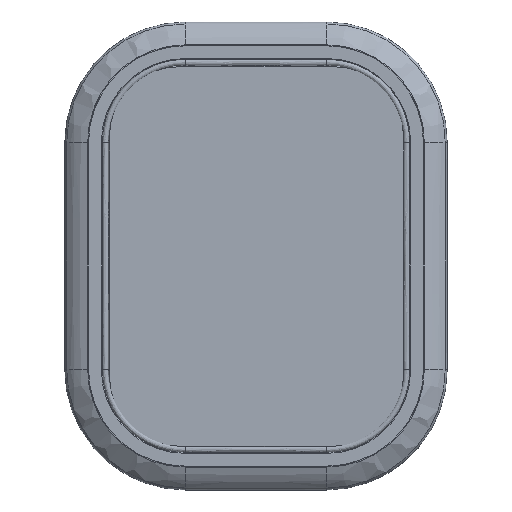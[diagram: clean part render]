
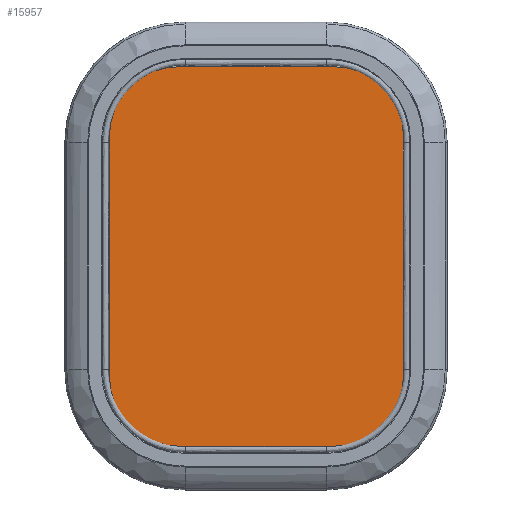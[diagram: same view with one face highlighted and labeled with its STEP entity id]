
A CAD part, top view. The second image highlights one B-rep face of the part: STEP entity #15957.
In plain terms, the highlighted planar face has unit normal (0, 0, 1) as drawn and (0, 1, 0) by its records, which use the part's own axes.
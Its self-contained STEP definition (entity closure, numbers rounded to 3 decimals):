
#15318=DIRECTION('',(-1.,0.,0.));
#15319=VECTOR('',#15318,155.);
#15320=CARTESIAN_POINT('',(77.5,6.,-94.5));
#15321=LINE('',#15320,#15319);
#15322=CARTESIAN_POINT('',(77.5,6.,-50.));
#15323=DIRECTION('',(0.,1.,0.));
#15324=DIRECTION('',(1.,0.,0.));
#15325=AXIS2_PLACEMENT_3D('',#15322,#15323,#15324);
#15327=DIRECTION('',(0.,0.,-1.));
#15328=VECTOR('',#15327,100.);
#15329=CARTESIAN_POINT('',(122.,6.,50.));
#15330=LINE('',#15329,#15328);
#15331=CARTESIAN_POINT('',(77.5,6.,50.));
#15332=DIRECTION('',(0.,1.,0.));
#15333=DIRECTION('',(0.,0.,1.));
#15334=AXIS2_PLACEMENT_3D('',#15331,#15332,#15333);
#15336=DIRECTION('',(1.,0.,0.));
#15337=VECTOR('',#15336,155.);
#15338=CARTESIAN_POINT('',(-77.5,6.,94.5));
#15339=LINE('',#15338,#15337);
#15340=CARTESIAN_POINT('',(-77.5,6.,50.));
#15341=DIRECTION('',(0.,1.,0.));
#15342=DIRECTION('',(-1.,0.,0.));
#15343=AXIS2_PLACEMENT_3D('',#15340,#15341,#15342);
#15345=DIRECTION('',(0.,0.,1.));
#15346=VECTOR('',#15345,100.);
#15347=CARTESIAN_POINT('',(-122.,6.,-50.));
#15348=LINE('',#15347,#15346);
#15349=CARTESIAN_POINT('',(-77.5,6.,-50.));
#15350=DIRECTION('',(0.,1.,0.));
#15351=DIRECTION('',(0.,0.,-1.));
#15352=AXIS2_PLACEMENT_3D('',#15349,#15350,#15351);
#15882=CARTESIAN_POINT('',(77.5,6.,-94.5));
#15883=CARTESIAN_POINT('',(-77.5,6.,-94.5));
#15884=VERTEX_POINT('',#15882);
#15885=VERTEX_POINT('',#15883);
#15886=CARTESIAN_POINT('',(-122.,6.,-50.));
#15887=VERTEX_POINT('',#15886);
#15888=CARTESIAN_POINT('',(-122.,6.,50.));
#15889=VERTEX_POINT('',#15888);
#15890=CARTESIAN_POINT('',(-77.5,6.,94.5));
#15891=VERTEX_POINT('',#15890);
#15892=CARTESIAN_POINT('',(77.5,6.,94.5));
#15893=VERTEX_POINT('',#15892);
#15894=CARTESIAN_POINT('',(122.,6.,50.));
#15895=VERTEX_POINT('',#15894);
#15896=CARTESIAN_POINT('',(122.,6.,-50.));
#15897=VERTEX_POINT('',#15896);
#15934=CARTESIAN_POINT('',(0.,6.,0.));
#15935=DIRECTION('',(0.,1.,0.));
#15936=DIRECTION('',(1.,0.,0.));
#15937=AXIS2_PLACEMENT_3D('',#15934,#15935,#15936);
#15938=PLANE('',#15937);
#15940=ORIENTED_EDGE('',*,*,#15939,.F.);
#15942=ORIENTED_EDGE('',*,*,#15941,.F.);
#15944=ORIENTED_EDGE('',*,*,#15943,.F.);
#15946=ORIENTED_EDGE('',*,*,#15945,.F.);
#15948=ORIENTED_EDGE('',*,*,#15947,.F.);
#15950=ORIENTED_EDGE('',*,*,#15949,.F.);
#15952=ORIENTED_EDGE('',*,*,#15951,.F.);
#15954=ORIENTED_EDGE('',*,*,#15953,.F.);
#15955=EDGE_LOOP('',(#15940,#15942,#15944,#15946,#15948,#15950,#15952,#15954));
#15956=FACE_OUTER_BOUND('',#15955,.F.);
#15957=ADVANCED_FACE('',(#15956),#15938,.T.);
#15326=CIRCLE('',#15325,44.5);
#15335=CIRCLE('',#15334,44.5);
#15344=CIRCLE('',#15343,44.5);
#15353=CIRCLE('',#15352,44.5);
#15939=EDGE_CURVE('',#15884,#15885,#15321,.T.);
#15941=EDGE_CURVE('',#15897,#15884,#15326,.T.);
#15943=EDGE_CURVE('',#15895,#15897,#15330,.T.);
#15945=EDGE_CURVE('',#15893,#15895,#15335,.T.);
#15947=EDGE_CURVE('',#15891,#15893,#15339,.T.);
#15949=EDGE_CURVE('',#15889,#15891,#15344,.T.);
#15951=EDGE_CURVE('',#15887,#15889,#15348,.T.);
#15953=EDGE_CURVE('',#15885,#15887,#15353,.T.);
